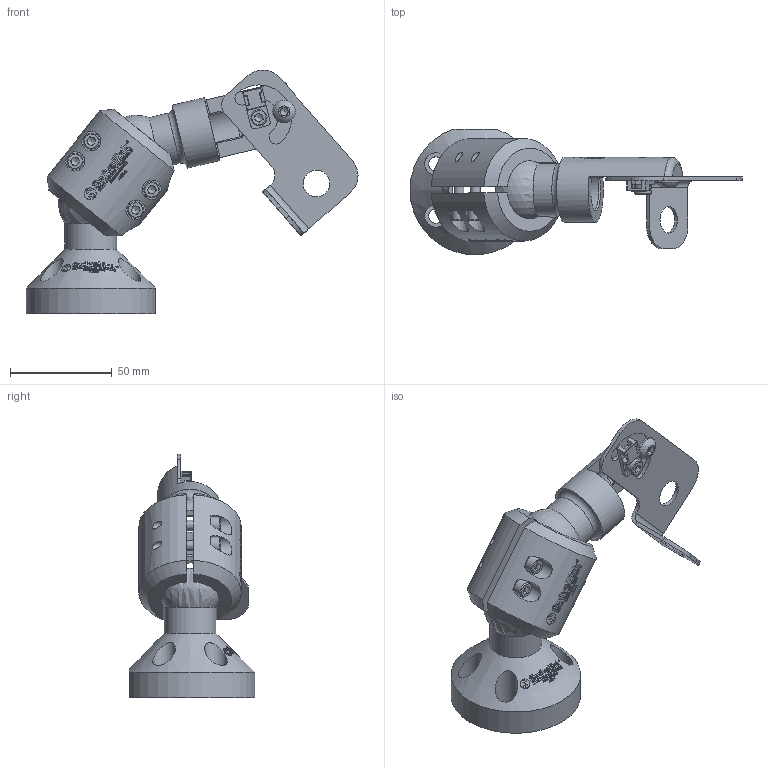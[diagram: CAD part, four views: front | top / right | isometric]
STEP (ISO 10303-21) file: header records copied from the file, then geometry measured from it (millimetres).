
FILE_DESCRIPTION (( 'STEP AP203' ), '1' );
FILE_NAME ('AFSB-1000-SBKIT-12.STEP', '2020-06-02T13:39:00', ( '' ), ( '' ), 'SwSTEP 2.0', 'SolidWorks 2020', '' );
FILE_SCHEMA (( 'CONFIG_CONTROL_DESIGN' ));
Length unit declared in the file: inch
Products named in the file (10): AFSB-1000-SBKIT-12; AFSB-SBH; AFSB-1_Swivellink Etching; 07281137; AFSB-2_Swivellink Etching; AFSB-SB-12; AFSB-2; SHCS-23146-BO_SHCS-23146-BO; BHCS-24048-BO_BHCS-24048-BO; SHCS-23144-BO_SHCS-23144-BO
Assembly tree (12 placements, depth 3):
  AFSB-1000-SBKIT-12
    AFSB-1_Swivellink Etching
    AFSB-2
      AFSB-2_Swivellink Etching
      SHCS-23146-BO_SHCS-23146-BO  x4
    AFSB-SBH
    AFSB-SB-12
    07281137
    SHCS-23144-BO_SHCS-23144-BO
    BHCS-24048-BO_BHCS-24048-BO
Bounding box: 162.76 x 61.59 x 119.59 mm (x, y, z)
Volume: 85972 mm3; surface area: 56878.6 mm2
Topology: 11 solids, 13 shells, 598 faces, 4869 edges, 4572 vertices
Faces by surface type: cylinder 242, plane 236, cone 96, sphere 11, torus 8, bspline 5
Full cylindrical faces by diameter (mm): 3.797 x5, 4.826 x5, 5.08 x1, 5.105 x1, 5.613 x4, 6.35 x1, 7.137 x4, 7.144 x1, 7.938 x5, 11.1 x1, 11.112 x4, 13.097 x2, 19.05 x1, 22.225 x1, 25.4 x2, 31.75 x1
Entity records: 54918 total; most frequent: CARTESIAN_POINT 21245, ORIENTED_EDGE 9240, EDGE_CURVE 4622, VERTEX_POINT 4459, DIRECTION 3894, B_SPLINE_CURVE_WITH_KNOTS 2393, VECTOR 1634, LINE 1634
